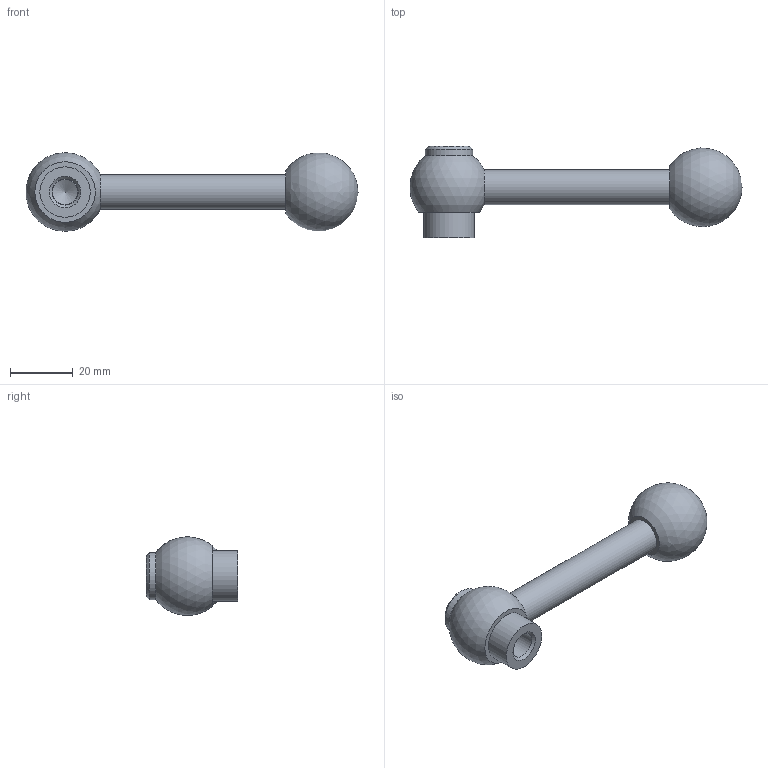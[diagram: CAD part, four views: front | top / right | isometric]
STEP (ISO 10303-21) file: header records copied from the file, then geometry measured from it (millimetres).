
FILE_DESCRIPTION( ( 'STEP AP203' ), '1' );
FILE_NAME( 'C:/Temp/Ganter_Step_05_03_2020/data/2_1/gn_6337_3/gn_6337_3_mb/gn_6337_3_mb_m/Adjustable clamping lever GN 6337.3-25-M10-M.stp', '2020-03-05T11:41:10', ( 'License CC BY-ND 4.0' ), ( 'CADENAS' ), ' ', 'PARTsolutions', ' ' );
FILE_SCHEMA( ( 'CONFIG_CONTROL_DESIGN' ) );
Length unit declared in the file: millimetre
Products named in the file (1): _Adjustable clamping lever GN 6337.3-25-M10-M
Bounding box: 105.41 x 29 x 24.97 mm (x, y, z)
Volume: 21975.1 mm3; surface area: 6610.2 mm2
Topology: 1 solids, 1 shells, 15 faces, 28 edges, 18 vertices
Faces by surface type: cylinder 5, plane 5, cone 3, sphere 2
Full cylindrical faces by diameter (mm): 8 x1, 8.376 x1, 11 x1, 15 x1, 16 x1
Entity records: 346 total; most frequent: DIRECTION 60, CARTESIAN_POINT 46, AXIS2_PLACEMENT_3D 30, EDGE_LOOP 28, ORIENTED_EDGE 28, FACE_OUTER_BOUND 21, VERTEX_POINT 16, ADVANCED_FACE 15
